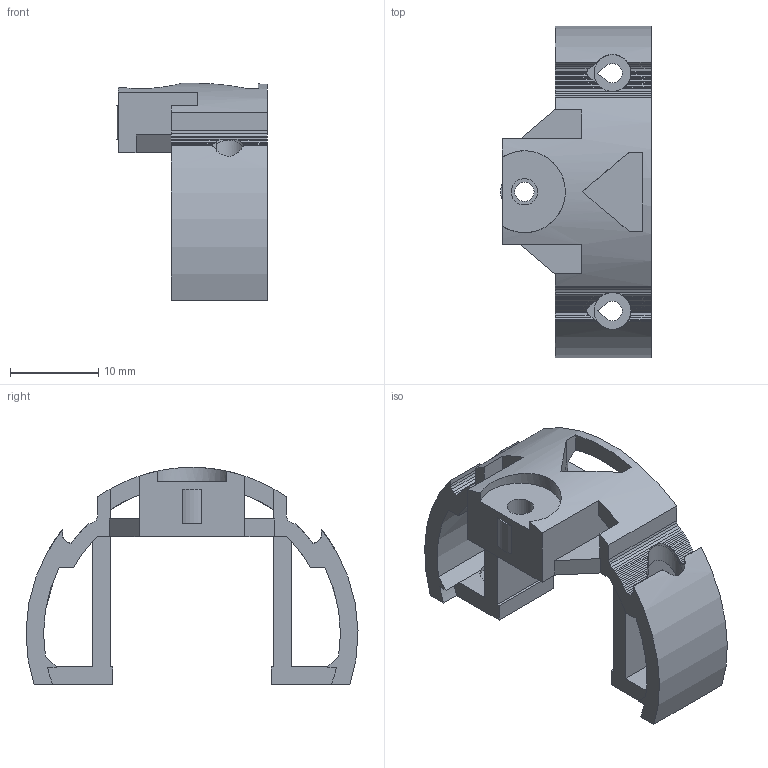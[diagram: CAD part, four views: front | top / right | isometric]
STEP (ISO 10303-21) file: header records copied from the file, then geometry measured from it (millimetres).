
FILE_DESCRIPTION(('SkyG Speed 90B - revision C6B-23 - 2026-10-17','HL2-hatch-lip-rear'),'2;1');
FILE_NAME('HL2-hatch-lip-rear_C6B-23','2026-10-17T16:26:56',('Author'),( 'Open CASCADE'),'Open CASCADE STEP processor 7.9','Open CASCADE 7.9' ,'Unknown');
FILE_SCHEMA(('AUTOMOTIVE_DESIGN { 1 0 10303 214 1 1 1 1 }'));
Length unit declared in the file: millimetre
Products named in the file (1): HL2-hatch-lip-rear C6B-23
Bounding box: 17.09 x 37.69 x 24.65 mm (x, y, z)
Volume: 3215.2 mm3; surface area: 3492.2 mm2
Topology: 1 solids, 1 shells, 176 faces, 553 edges, 371 vertices
Faces by surface type: plane 151, cylinder 24, cone 1
Full cylindrical faces by diameter (mm): 2.2 x1, 3 x1, 4.2 x2
Entity records: 15933 total; most frequent: CARTESIAN_POINT 5562, DIRECTION 1753, ORIENTED_EDGE 1106, PCURVE 1106, DEFINITIONAL_REPRESENTATION 1106, LINE 994, VECTOR 994, EDGE_CURVE 553
